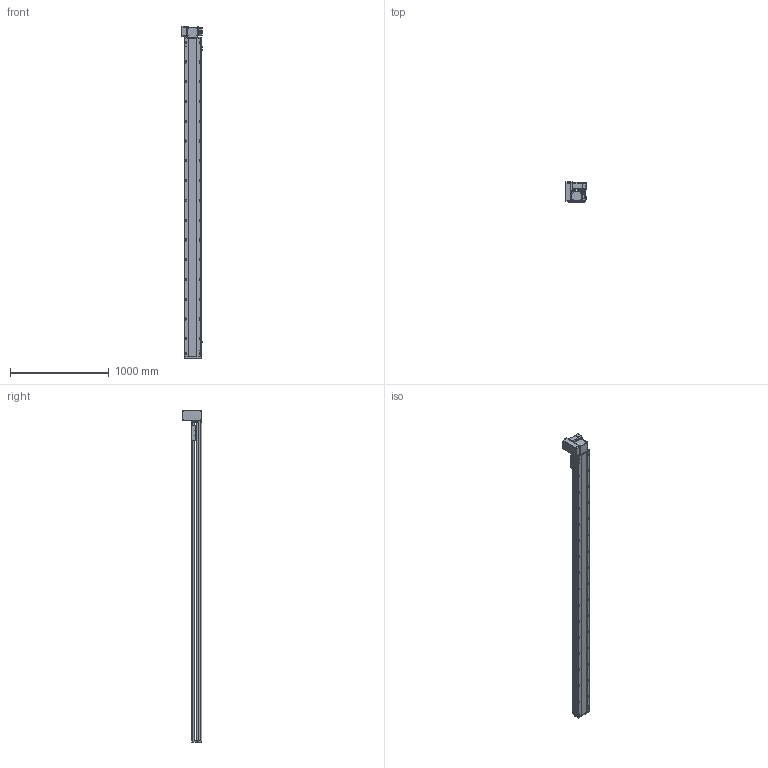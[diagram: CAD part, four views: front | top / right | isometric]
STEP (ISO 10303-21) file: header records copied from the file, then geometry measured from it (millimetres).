
FILE_DESCRIPTION (( 'STEP AP214' ), '1' );
FILE_NAME ('RTB17S-XX-2950-LW-M75-C4.STEP', '2025-12-12T01:19:51', ( '' ), ( '' ), 'SwSTEP 2.0', 'SolidWorks 2018', '' );
FILE_SCHEMA (( 'AUTOMOTIVE_DESIGN' ));
Length unit declared in the file: millimetre
Products named in the file (15): 750W萇儂^RTB17S-XX-XX-LW-M75-C4; RTH13-BL-012覜茼え俋离^RTB17S-賑釱_RTB17S-XX-XX-LW-M75-C4; RTB17S-L-007奻裔^RTB17S-XX-XX-LW-M75-C4; RTB17S-LW-々湍釱蚾饜-750W^RTB17S-XX-XX-LW-M75-C4; RTB22S-GY-018P^RTB17S-LW-々湍釱蚾饜-750W_RTB17S-XX-XX-LW-M75-C4; RTB17S-L-014-T20-P75--々湍釱^RTB17S-LW-々湍釱蚾饜-750W_RTB17S-XX-XX-LW-M75-C4; RTB17S-賑釱^RTB17S-XX-XX-LW-M75-C4; RTB22S-GY-017P^RTB17S-LW-々湍釱蚾饜-750W_RTB17S-XX-XX-LW-M75-C4; RTB17S-L-004-賑釱^RTB17S-賑釱_RTB17S-XX-XX-LW-M75-C4; RTB17-R-011菁釱^RTB17S-XX-XX-LW-M75-C4; RTB17S-L-001-耜醱啣^RTB17S-XX-XX-LW-M75-C4; EE672^RTB17S-XX-XX-LW-M75-C4; RTB17S-XX-2950-LW-M75-C4; RTB22S-GY-008-M75--萇儂啣^RTB17S-LW-々湍釱蚾饜-750W_RTB17S-XX-XX-LW-M75-C4; RTB22S-GY-005P^RTB17S-LW-々湍釱蚾饜-750W_RTB17S-XX-XX-LW-M75-C4
Assembly tree (17 placements, depth 3):
  RTB17S-XX-2950-LW-M75-C4
    RTB17-R-011菁釱^RTB17S-XX-XX-LW-M75-C4
    EE672^RTB17S-XX-XX-LW-M75-C4  x3
    RTB17S-L-001-耜醱啣^RTB17S-XX-XX-LW-M75-C4
    RTB17S-賑釱^RTB17S-XX-XX-LW-M75-C4
      RTB17S-L-004-賑釱^RTB17S-賑釱_RTB17S-XX-XX-LW-M75-C4
      RTH13-BL-012覜茼え俋离^RTB17S-賑釱_RTB17S-XX-XX-LW-M75-C4
    RTB17S-L-007奻裔^RTB17S-XX-XX-LW-M75-C4
    750W萇儂^RTB17S-XX-XX-LW-M75-C4
    RTB17S-LW-々湍釱蚾饜-750W^RTB17S-XX-XX-LW-M75-C4
      RTB17S-L-014-T20-P75--々湍釱^RTB17S-LW-々湍釱蚾饜-750W_RTB17S-XX-XX-LW-M75-C4
      RTB22S-GY-005P^RTB17S-LW-々湍釱蚾饜-750W_RTB17S-XX-XX-LW-M75-C4
      RTB22S-GY-017P^RTB17S-LW-々湍釱蚾饜-750W_RTB17S-XX-XX-LW-M75-C4  x2
      RTB22S-GY-008-M75--萇儂啣^RTB17S-LW-々湍釱蚾饜-750W_RTB17S-XX-XX-LW-M75-C4
      RTB22S-GY-018P^RTB17S-LW-々湍釱蚾饜-750W_RTB17S-XX-XX-LW-M75-C4
Bounding box: 210.4 x 201.5 x 3357.5 mm (x, y, z)
Volume: 24390898.8 mm3; surface area: 4466161 mm2
Topology: 17 solids, 17 shells, 2249 faces, 6322 edges, 4094 vertices
Faces by surface type: plane 990, cylinder 843, bspline 294, cone 110, sphere 8, torus 4
Entity records: 65782 total; most frequent: CARTESIAN_POINT 19586, ORIENTED_EDGE 9488, DIRECTION 8762, EDGE_CURVE 4744, AXIS2_PLACEMENT_3D 3114, VERTEX_POINT 3098, VECTOR 2534, LINE 2534
